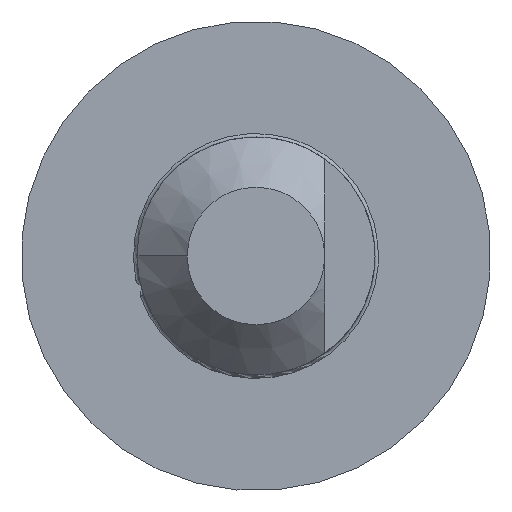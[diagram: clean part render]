
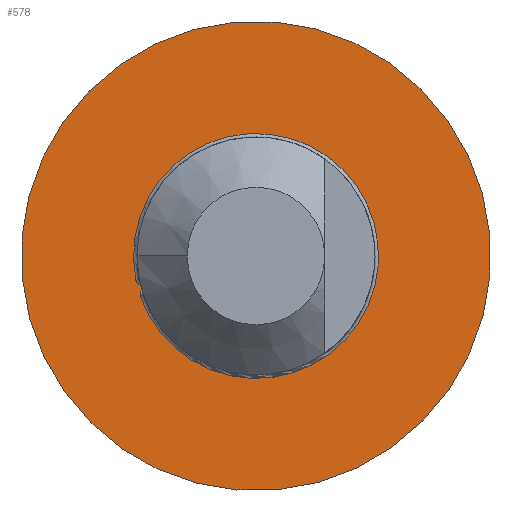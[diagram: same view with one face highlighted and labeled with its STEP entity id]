
A CAD part, front view. The second image highlights one B-rep face of the part: STEP entity #578.
In plain terms, the highlighted planar face has unit normal (0, -1, 0).
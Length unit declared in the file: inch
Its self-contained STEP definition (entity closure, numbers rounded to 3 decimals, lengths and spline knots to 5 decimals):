
#15=FACE_BOUND('',#115,.T.);
#38=B_SPLINE_CURVE_WITH_KNOTS('',3,(#1007,#1008,#1009,#1010,#1011,#1012,
#1013,#1014,#1015,#1016,#1017,#1018,#1019,#1020),.UNSPECIFIED.,.F.,.F.,
(4,2,2,2,2,2,4),(0.,0.06323,0.12759,0.18589,
0.22433,0.24936,0.25724),.UNSPECIFIED.);
#40=B_SPLINE_CURVE_WITH_KNOTS('',3,(#1103,#1104,#1105,#1106,#1107,#1108,
#1109,#1110,#1111,#1112,#1113,#1114,#1115,#1116),.UNSPECIFIED.,.F.,.F.,
(4,2,2,2,2,2,4),(0.00019,0.00542,0.04397,
0.08395,0.14606,0.18069,0.21417),
 .UNSPECIFIED.);
#53=PLANE('',#668);
#81=FACE_OUTER_BOUND('',#114,.T.);
#114=EDGE_LOOP('',(#504,#505));
#115=EDGE_LOOP('',(#506,#507,#508,#509,#510,#511));
#143=CIRCLE('',#632,1.62438);
#148=CIRCLE('',#644,0.02227);
#165=CIRCLE('',#666,3.113);
#166=CIRCLE('',#667,3.113);
#193=LINE('',#1203,#215);
#194=LINE('',#1207,#216);
#215=VECTOR('',#771,0.3937);
#216=VECTOR('',#776,0.3937);
#248=VERTEX_POINT('',#1005);
#249=VERTEX_POINT('',#1006);
#250=VERTEX_POINT('',#1069);
#251=VERTEX_POINT('',#1102);
#254=VERTEX_POINT('',#1202);
#255=VERTEX_POINT('',#1206);
#270=VERTEX_POINT('',#1248);
#271=VERTEX_POINT('',#1249);
#315=EDGE_CURVE('',#248,#249,#38,.T.);
#318=EDGE_CURVE('',#250,#248,#143,.T.);
#320=EDGE_CURVE('',#251,#250,#40,.T.);
#329=EDGE_CURVE('',#249,#254,#193,.T.);
#331=EDGE_CURVE('',#255,#251,#194,.T.);
#333=EDGE_CURVE('',#254,#255,#148,.T.);
#352=EDGE_CURVE('',#270,#271,#165,.T.);
#353=EDGE_CURVE('',#271,#270,#166,.T.);
#504=ORIENTED_EDGE('',*,*,#352,.T.);
#505=ORIENTED_EDGE('',*,*,#353,.T.);
#506=ORIENTED_EDGE('',*,*,#320,.F.);
#507=ORIENTED_EDGE('',*,*,#331,.F.);
#508=ORIENTED_EDGE('',*,*,#333,.F.);
#509=ORIENTED_EDGE('',*,*,#329,.F.);
#510=ORIENTED_EDGE('',*,*,#315,.F.);
#511=ORIENTED_EDGE('',*,*,#318,.F.);
#578=ADVANCED_FACE('',(#81,#15),#53,.T.);
#632=AXIS2_PLACEMENT_3D('',#1070,#753,#754);
#644=AXIS2_PLACEMENT_3D('',#1210,#781,#782);
#666=AXIS2_PLACEMENT_3D('',#1250,#827,#828);
#667=AXIS2_PLACEMENT_3D('',#1251,#829,#830);
#668=AXIS2_PLACEMENT_3D('',#1253,#832,#833);
#753=DIRECTION('center_axis',(0.,-1.,0.));
#754=DIRECTION('ref_axis',(0.,0.,-1.));
#771=DIRECTION('',(0.964,0.,0.265));
#776=DIRECTION('',(-0.964,0.,-0.265));
#781=DIRECTION('center_axis',(0.,1.,0.));
#782=DIRECTION('ref_axis',(0.,0.,1.));
#827=DIRECTION('center_axis',(0.,-1.,0.));
#828=DIRECTION('ref_axis',(-0.265,0.,0.964));
#829=DIRECTION('center_axis',(0.,-1.,0.));
#830=DIRECTION('ref_axis',(-0.265,0.,0.964));
#832=DIRECTION('center_axis',(0.,-1.,0.));
#833=DIRECTION('ref_axis',(-0.265,0.,0.964));
#1005=CARTESIAN_POINT('',(-1.59223,6.085,-0.32155));
#1006=CARTESIAN_POINT('',(-1.52753,6.085,-0.39599));
#1007=CARTESIAN_POINT('Ctrl Pts',(-1.59223,6.085,-0.32155));
#1008=CARTESIAN_POINT('Ctrl Pts',(-1.5906,6.085,-0.32969));
#1009=CARTESIAN_POINT('Ctrl Pts',(-1.58743,6.085,-0.33752));
#1010=CARTESIAN_POINT('Ctrl Pts',(-1.57905,6.085,-0.35206));
#1011=CARTESIAN_POINT('Ctrl Pts',(-1.57378,6.085,-0.35879));
#1012=CARTESIAN_POINT('Ctrl Pts',(-1.56266,6.085,-0.37042));
#1013=CARTESIAN_POINT('Ctrl Pts',(-1.55688,6.085,-0.37546));
#1014=CARTESIAN_POINT('Ctrl Pts',(-1.54697,6.085,-0.38311));
#1015=CARTESIAN_POINT('Ctrl Pts',(-1.54316,6.085,-0.38583));
#1016=CARTESIAN_POINT('Ctrl Pts',(-1.536,6.085,-0.39063));
#1017=CARTESIAN_POINT('Ctrl Pts',(-1.53312,6.085,-0.39251));
#1018=CARTESIAN_POINT('Ctrl Pts',(-1.52936,6.085,-0.39489));
#1019=CARTESIAN_POINT('Ctrl Pts',(-1.52845,6.085,-0.39546));
#1020=CARTESIAN_POINT('Ctrl Pts',(-1.52755,6.085,-0.39602));
#1069=CARTESIAN_POINT('',(-1.53343,6.085,-0.53591));
#1070=CARTESIAN_POINT('Origin',(0.,6.085,0.));
#1102=CARTESIAN_POINT('',(-1.51576,6.085,-0.43887));
#1103=CARTESIAN_POINT('Ctrl Pts',(-1.5158,6.085,-0.43886));
#1104=CARTESIAN_POINT('Ctrl Pts',(-1.51611,6.085,-0.43947));
#1105=CARTESIAN_POINT('Ctrl Pts',(-1.51643,6.085,-0.44008));
#1106=CARTESIAN_POINT('Ctrl Pts',(-1.51905,6.085,-0.4452));
#1107=CARTESIAN_POINT('Ctrl Pts',(-1.52143,6.085,-0.45002));
#1108=CARTESIAN_POINT('Ctrl Pts',(-1.52566,6.085,-0.45929));
#1109=CARTESIAN_POINT('Ctrl Pts',(-1.52768,6.085,-0.46414));
#1110=CARTESIAN_POINT('Ctrl Pts',(-1.53225,6.085,-0.4766));
#1111=CARTESIAN_POINT('Ctrl Pts',(-1.53538,6.085,-0.4868));
#1112=CARTESIAN_POINT('Ctrl Pts',(-1.53759,6.085,-0.5047));
#1113=CARTESIAN_POINT('Ctrl Pts',(-1.5378,6.085,-0.51114));
#1114=CARTESIAN_POINT('Ctrl Pts',(-1.53672,6.085,-0.52381));
#1115=CARTESIAN_POINT('Ctrl Pts',(-1.53549,6.085,-0.53002));
#1116=CARTESIAN_POINT('Ctrl Pts',(-1.53343,6.085,-0.53591));
#1202=CARTESIAN_POINT('',(-1.16833,6.085,-0.29741));
#1203=CARTESIAN_POINT('',(-1.86593,6.085,-0.48879));
#1206=CARTESIAN_POINT('',(-1.15654,6.085,-0.34037));
#1207=CARTESIAN_POINT('',(-1.85415,6.085,-0.53174));
#1210=CARTESIAN_POINT('Origin',(-1.16243,6.085,-0.31889));
#1248=CARTESIAN_POINT('',(-3.00209,6.085,-0.82356));
#1249=CARTESIAN_POINT('',(3.00209,6.085,0.82356));
#1250=CARTESIAN_POINT('Origin',(0.,6.085,0.));
#1251=CARTESIAN_POINT('Origin',(0.,6.085,0.));
#1253=CARTESIAN_POINT('Origin',(-2.92204,6.085,-0.8016));
